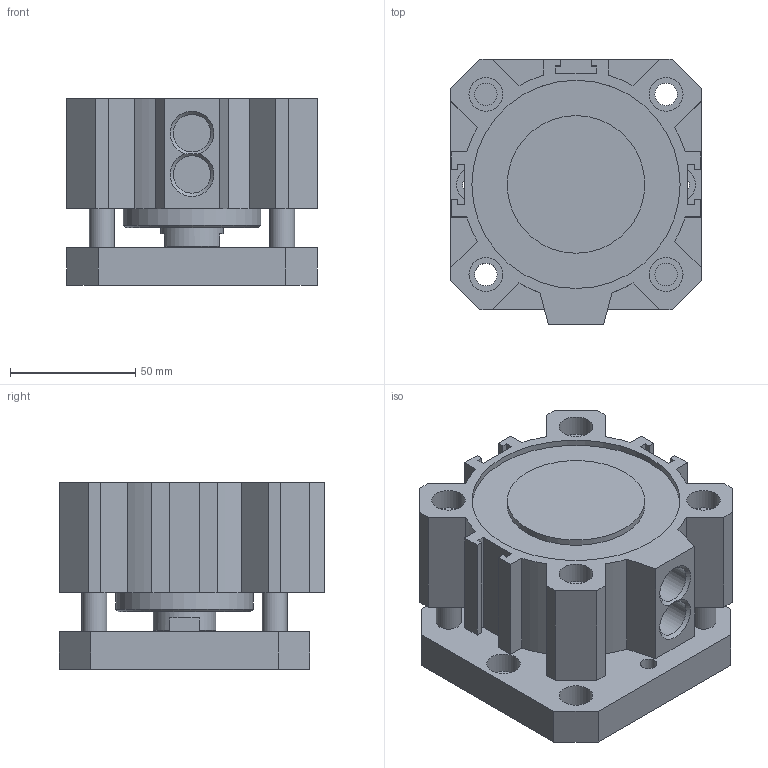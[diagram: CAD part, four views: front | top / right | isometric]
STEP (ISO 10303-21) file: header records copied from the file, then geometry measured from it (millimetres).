
FILE_DESCRIPTION(/* description */ (''),/* implementation_level */ '2;1');
FILE_NAME(/* name */ 'I:\Area Tecnica\Disegni\VARIE-3D\Componenti\1500\Ø80\15##_80_####_#\1501_80_0000_AR.stp',/* time_stamp */ '2016-08-24T14:11:26+02:00',/* author */ ('Maniean1'),/* organization */ ('Pneumax S.p.A.'),/* preprocessor_version */ 'ST-DEVELOPER v15.2',/* originating_system */ 'Autodesk Inventor 2014',/* authorisation */ '');
FILE_SCHEMA (('AUTOMOTIVE_DESIGN { 1 0 10303 214 3 1 1 }'));
Length unit declared in the file: millimetre
Products named in the file (3): C_1501_80_0000_AR; S_1501_80_0000_AR; 1501_80_0000_AR
Bounding box: 100 x 106 x 74.5 mm (x, y, z)
Volume: 504892.3 mm3; surface area: 110621.7 mm2
Topology: 2 solids, 2 shells, 139 faces, 344 edges, 230 vertices
Faces by surface type: plane 94, cylinder 40, cone 5
Full cylindrical faces by diameter (mm): 6.647 x2, 8.5 x2, 9 x4, 10 x4, 13.5 x10, 14.95 x2, 25 x2, 55 x2, 80 x2, 83.2 x2
Entity records: 4091 total; most frequent: CARTESIAN_POINT 680, DIRECTION 672, ORIENTED_EDGE 602, EDGE_CURVE 301, AXIS2_PLACEMENT_3D 232, VERTEX_POINT 222, EDGE_LOOP 215, LINE 208
